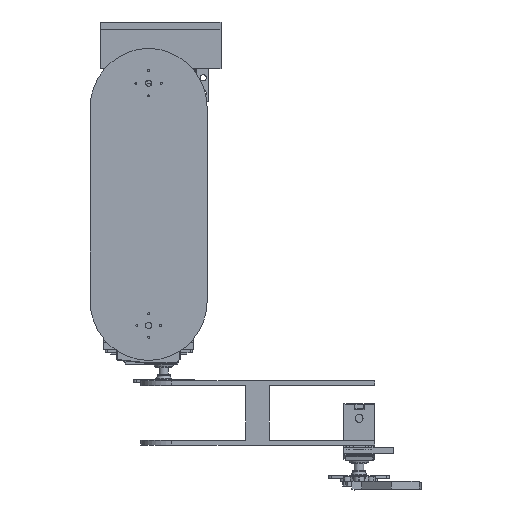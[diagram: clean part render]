
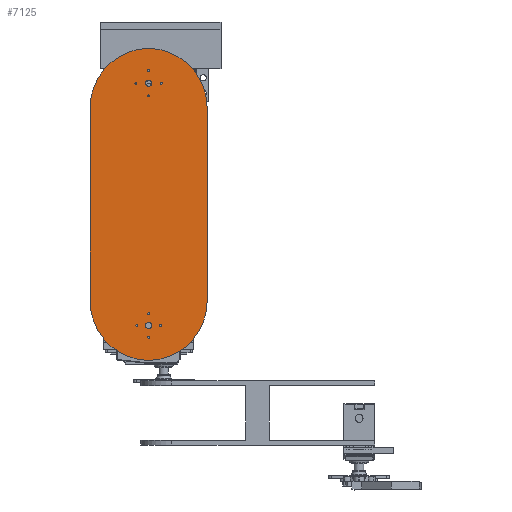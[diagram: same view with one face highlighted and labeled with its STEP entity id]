
A CAD part, left-side view. The second image highlights one B-rep face of the part: STEP entity #7125.
In plain terms, the highlighted planar face has unit normal (-1, 0, 0) as drawn and (0, 0, 1) by its records, which use the part's own axes.
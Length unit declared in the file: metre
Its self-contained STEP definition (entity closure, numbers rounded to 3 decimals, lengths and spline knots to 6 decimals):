
#237=LINE('',#11234,#783);
#247=LINE('',#11257,#793);
#783=VECTOR('',#8979,1.);
#793=VECTOR('',#8999,1.);
#2102=ORIENTED_EDGE('',*,*,#3771,.T.);
#2103=ORIENTED_EDGE('',*,*,#3769,.T.);
#2104=ORIENTED_EDGE('',*,*,#3768,.T.);
#2105=ORIENTED_EDGE('',*,*,#3767,.F.);
#2106=ORIENTED_EDGE('',*,*,#3766,.F.);
#2107=ORIENTED_EDGE('',*,*,#3765,.T.);
#2108=ORIENTED_EDGE('',*,*,#3764,.T.);
#2109=ORIENTED_EDGE('',*,*,#3762,.F.);
#2110=ORIENTED_EDGE('',*,*,#3760,.F.);
#2111=ORIENTED_EDGE('',*,*,#3758,.F.);
#2112=ORIENTED_EDGE('',*,*,#3751,.T.);
#2113=ORIENTED_EDGE('',*,*,#3712,.T.);
#2114=ORIENTED_EDGE('',*,*,#3754,.T.);
#2115=ORIENTED_EDGE('',*,*,#3756,.T.);
#2116=ORIENTED_EDGE('',*,*,#3724,.F.);
#2117=ORIENTED_EDGE('',*,*,#3772,.T.);
#3712=EDGE_CURVE('',#4648,#4647,#237,.T.);
#3724=EDGE_CURVE('',#4655,#4656,#247,.T.);
#3751=EDGE_CURVE('',#4679,#4648,#5323,.T.);
#3754=EDGE_CURVE('',#4647,#4681,#5325,.T.);
#3756=EDGE_CURVE('',#4681,#4656,#5326,.T.);
#3758=EDGE_CURVE('',#4683,#4683,#5328,.T.);
#3760=EDGE_CURVE('',#4685,#4685,#5330,.T.);
#3762=EDGE_CURVE('',#4687,#4687,#5332,.T.);
#3764=EDGE_CURVE('',#4689,#4689,#5334,.T.);
#3765=EDGE_CURVE('',#4690,#4690,#5335,.T.);
#3766=EDGE_CURVE('',#4691,#4691,#5336,.T.);
#3767=EDGE_CURVE('',#4692,#4692,#5337,.T.);
#3768=EDGE_CURVE('',#4693,#4693,#5338,.T.);
#3769=EDGE_CURVE('',#4694,#4694,#5339,.T.);
#3771=EDGE_CURVE('',#4696,#4696,#5341,.T.);
#3772=EDGE_CURVE('',#4655,#4679,#5342,.T.);
#4647=VERTEX_POINT('',#11233);
#4648=VERTEX_POINT('',#11235);
#4655=VERTEX_POINT('',#11256);
#4656=VERTEX_POINT('',#11258);
#4679=VERTEX_POINT('',#11323);
#4681=VERTEX_POINT('',#11329);
#4683=VERTEX_POINT('',#11337);
#4685=VERTEX_POINT('',#11342);
#4687=VERTEX_POINT('',#11347);
#4689=VERTEX_POINT('',#11352);
#4690=VERTEX_POINT('',#11355);
#4691=VERTEX_POINT('',#11358);
#4692=VERTEX_POINT('',#11361);
#4693=VERTEX_POINT('',#11364);
#4694=VERTEX_POINT('',#11367);
#4696=VERTEX_POINT('',#11372);
#5323=CIRCLE('',#7801,0.038);
#5325=CIRCLE('',#7804,0.038);
#5326=CIRCLE('',#7806,0.038);
#5328=CIRCLE('',#7809,0.002);
#5330=CIRCLE('',#7812,0.00064);
#5332=CIRCLE('',#7815,0.00064);
#5334=CIRCLE('',#7818,0.00064);
#5335=CIRCLE('',#7820,0.00064);
#5336=CIRCLE('',#7822,0.00064);
#5337=CIRCLE('',#7824,0.00064);
#5338=CIRCLE('',#7826,0.00064);
#5339=CIRCLE('',#7828,0.002);
#5341=CIRCLE('',#7831,0.00064);
#5342=CIRCLE('',#7833,0.038);
#5820=EDGE_LOOP('',(#2102));
#5821=EDGE_LOOP('',(#2103));
#5822=EDGE_LOOP('',(#2104));
#5823=EDGE_LOOP('',(#2105));
#5824=EDGE_LOOP('',(#2106));
#5825=EDGE_LOOP('',(#2107));
#5826=EDGE_LOOP('',(#2108));
#5827=EDGE_LOOP('',(#2109));
#5828=EDGE_LOOP('',(#2110));
#5829=EDGE_LOOP('',(#2111));
#5830=EDGE_LOOP('',(#2112,#2113,#2114,#2115,#2116,#2117));
#6436=FACE_BOUND('',#5820,.T.);
#6437=FACE_BOUND('',#5821,.T.);
#6438=FACE_BOUND('',#5822,.T.);
#6439=FACE_BOUND('',#5823,.T.);
#6440=FACE_BOUND('',#5824,.T.);
#6441=FACE_BOUND('',#5825,.T.);
#6442=FACE_BOUND('',#5826,.T.);
#6443=FACE_BOUND('',#5827,.T.);
#6444=FACE_BOUND('',#5828,.T.);
#6445=FACE_BOUND('',#5829,.T.);
#6446=FACE_BOUND('',#5830,.T.);
#6864=PLANE('',#7836);
#7125=ADVANCED_FACE('',(#6436,#6437,#6438,#6439,#6440,#6441,#6442,#6443,
#6444,#6445,#6446),#6864,.F.);
#7801=AXIS2_PLACEMENT_3D('',#11322,#9080,#9081);
#7804=AXIS2_PLACEMENT_3D('',#11328,#9087,#9088);
#7806=AXIS2_PLACEMENT_3D('',#11332,#9092,#9093);
#7809=AXIS2_PLACEMENT_3D('',#11336,#9098,#9099);
#7812=AXIS2_PLACEMENT_3D('',#11341,#9104,#9105);
#7815=AXIS2_PLACEMENT_3D('',#11346,#9110,#9111);
#7818=AXIS2_PLACEMENT_3D('',#11351,#9116,#9117);
#7820=AXIS2_PLACEMENT_3D('',#11354,#9120,#9121);
#7822=AXIS2_PLACEMENT_3D('',#11357,#9124,#9125);
#7824=AXIS2_PLACEMENT_3D('',#11360,#9128,#9129);
#7826=AXIS2_PLACEMENT_3D('',#11363,#9132,#9133);
#7828=AXIS2_PLACEMENT_3D('',#11366,#9136,#9137);
#7831=AXIS2_PLACEMENT_3D('',#11371,#9142,#9143);
#7833=AXIS2_PLACEMENT_3D('',#11374,#9146,#9147);
#7836=AXIS2_PLACEMENT_3D('',#11377,#9152,#9153);
#8979=DIRECTION('',(0.,1.,0.));
#8999=DIRECTION('',(0.,1.,0.));
#9080=DIRECTION('',(0.,0.,1.));
#9081=DIRECTION('',(1.,0.,0.));
#9087=DIRECTION('',(0.,0.,1.));
#9088=DIRECTION('',(1.,0.,0.));
#9092=DIRECTION('',(0.,0.,1.));
#9093=DIRECTION('',(1.,0.,0.));
#9098=DIRECTION('',(0.,0.,1.));
#9099=DIRECTION('',(1.,0.,0.));
#9104=DIRECTION('',(0.,0.,1.));
#9105=DIRECTION('',(1.,0.,0.));
#9110=DIRECTION('',(0.,0.,1.));
#9111=DIRECTION('',(1.,0.,0.));
#9116=DIRECTION('',(0.,0.,-1.));
#9117=DIRECTION('',(1.,0.,0.));
#9120=DIRECTION('',(0.,0.,-1.));
#9121=DIRECTION('',(1.,0.,0.));
#9124=DIRECTION('',(0.,0.,1.));
#9125=DIRECTION('',(1.,0.,0.));
#9128=DIRECTION('',(0.,0.,1.));
#9129=DIRECTION('',(1.,0.,0.));
#9132=DIRECTION('',(0.,0.,-1.));
#9133=DIRECTION('',(1.,0.,0.));
#9136=DIRECTION('',(0.,0.,-1.));
#9137=DIRECTION('',(1.,0.,0.));
#9142=DIRECTION('',(0.,0.,-1.));
#9143=DIRECTION('',(1.,0.,0.));
#9146=DIRECTION('',(0.,0.,1.));
#9147=DIRECTION('',(1.,0.,0.));
#9152=DIRECTION('',(0.,0.,-1.));
#9153=DIRECTION('',(1.,0.,0.));
#11233=CARTESIAN_POINT('',(0.075,0.162,0.05545));
#11234=CARTESIAN_POINT('',(0.075,0.1,0.05545));
#11235=CARTESIAN_POINT('',(0.075,0.038,0.05545));
#11256=CARTESIAN_POINT('',(0.,0.038,0.05545));
#11257=CARTESIAN_POINT('',(0.,0.1,0.05545));
#11258=CARTESIAN_POINT('',(0.,0.162,0.05545));
#11322=CARTESIAN_POINT('',(0.037,0.038,0.05545));
#11323=CARTESIAN_POINT('',(0.0375,0.000003,0.05545));
#11328=CARTESIAN_POINT('',(0.037,0.162,0.05545));
#11329=CARTESIAN_POINT('',(0.0375,0.199997,0.05545));
#11332=CARTESIAN_POINT('',(0.038,0.162,0.05545));
#11336=CARTESIAN_POINT('',(0.0375,0.022375,0.05545));
#11337=CARTESIAN_POINT('',(0.0395,0.022375,0.05545));
#11341=CARTESIAN_POINT('',(0.029372,0.022375,0.05545));
#11342=CARTESIAN_POINT('',(0.030012,0.022375,0.05545));
#11346=CARTESIAN_POINT('',(0.0375,0.030503,0.05545));
#11347=CARTESIAN_POINT('',(0.03814,0.030503,0.05545));
#11351=CARTESIAN_POINT('',(0.0375,0.014247,0.05545));
#11352=CARTESIAN_POINT('',(0.03814,0.014247,0.05545));
#11354=CARTESIAN_POINT('',(0.029934,0.177625,0.05545));
#11355=CARTESIAN_POINT('',(0.030574,0.177625,0.05545));
#11357=CARTESIAN_POINT('',(0.0375,0.185191,0.05545));
#11358=CARTESIAN_POINT('',(0.03814,0.185191,0.05545));
#11360=CARTESIAN_POINT('',(0.045066,0.177625,0.05545));
#11361=CARTESIAN_POINT('',(0.045706,0.177625,0.05545));
#11363=CARTESIAN_POINT('',(0.0375,0.170059,0.05545));
#11364=CARTESIAN_POINT('',(0.03814,0.170059,0.05545));
#11366=CARTESIAN_POINT('',(0.0375,0.177625,0.05545));
#11367=CARTESIAN_POINT('',(0.0395,0.177625,0.05545));
#11371=CARTESIAN_POINT('',(0.045628,0.022375,0.05545));
#11372=CARTESIAN_POINT('',(0.046268,0.022375,0.05545));
#11374=CARTESIAN_POINT('',(0.038,0.038,0.05545));
#11377=CARTESIAN_POINT('',(0.0375,0.1,0.05545));
